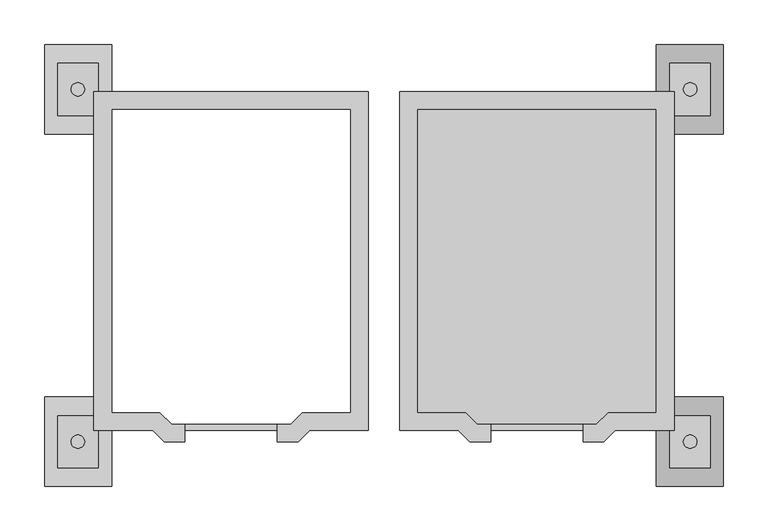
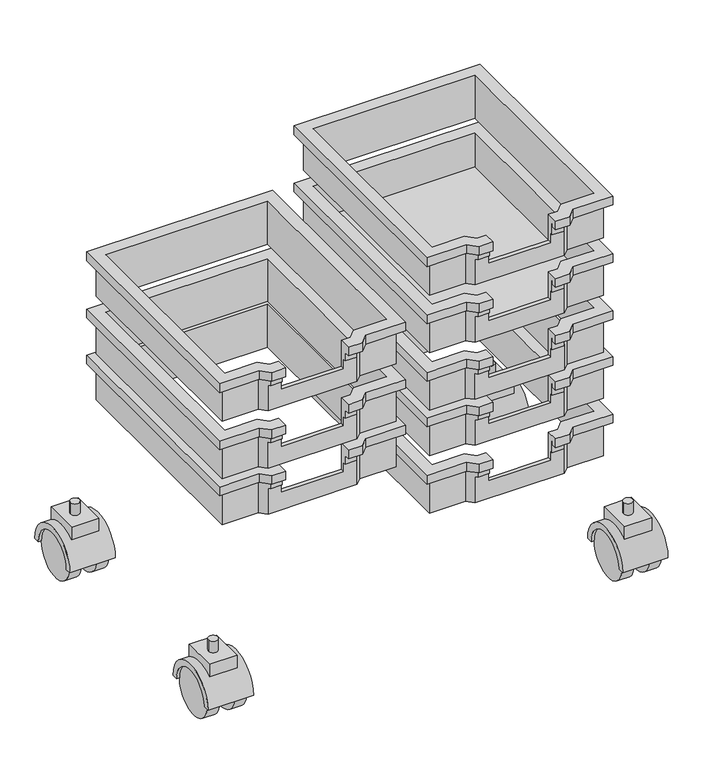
"""IFC4 building model written with IfcOpenShell, lengths in millimetres: furniture geometry, BIMHealth-Trolley_Gratnell-v1 : BIMHealth-Trolley_Gratnell-v1."""

from ifc_helpers import new_model, si_unit, point, frame, frame_2d, origin, place, context, project, spatial, polyline, circle_curve, trimmed, segment, composite_curve, outline, extrude, faceted_brep, source, transform, mapped, element, save


def furniture_ef83e96a(model_context):
    return source(origin(), model_context, "Body", "SolidModel", [
        extrude(outline(composite_curve([segment(trimmed(circle_curve(frame_2d((342.7936384, -197.5)), 7.5), [point((350.2936384, -197.5))], [point((335.2936384, -197.5))], False, "CARTESIAN"), True, "CONTINUOUS"), segment(trimmed(circle_curve(frame_2d((342.7936384, -197.5)), 7.5), [point((335.2936384, -197.5))], [point((350.2936384, -197.5))], False, "CARTESIAN"), True, "CONTINUOUS")], self_intersect=False)), frame((0.0, 0.0, 102.2775188), z_axis=(0.0, 0.0, 1.0), x_axis=(1.0, 0.0, 0.0)), (0.0, 0.0, 1.0), 20.0),
        extrude(outline(composite_curve([segment(polyline([(-168.2435995, 102.2775188), (-168.2435995, 80.5470471)]), True, "CONTINUOUS"), segment(trimmed(circle_curve(frame_2d((-197.5, 40.0)), 50.0), [point((-168.2435995, 80.5470471))], [point((-226.7564005, 80.5470471))], True, "CARTESIAN"), True, "CONTINUOUS"), segment(polyline([(-226.7564005, 80.5470471), (-226.7564005, 102.2775188), (-168.2435995, 102.2775188)]), True, "CONTINUOUS")], self_intersect=False)), frame((320.1679747, 0.0, 0.0), z_axis=(1.0, 0.0, 0.0), x_axis=(0.0, 1.0, 0.0)), (0.0, 0.0, 1.0), 45.2513275),
        extrude(outline(composite_curve([segment(trimmed(circle_curve(frame_2d((-197.5, 40.0)), 40.0), [point((-157.5, 40.0))], [point((-237.5, 40.0))], True, "CARTESIAN"), True, "CONTINUOUS"), segment(polyline([(-237.5, 40.0), (-247.5, 40.0)]), True, "CONTINUOUS"), segment(trimmed(circle_curve(frame_2d((-197.5, 40.0)), 50.0), [point((-247.5, 40.0))], [point((-147.5, 40.0))], False, "CARTESIAN"), True, "CONTINUOUS"), segment(polyline([(-147.5, 40.0), (-157.5, 40.0)]), True, "CONTINUOUS")], self_intersect=False)), frame((305.0, 0.0, 0.0), z_axis=(1.0, 0.0, 0.0), x_axis=(0.0, 1.0, 0.0)), (0.0, 0.0, 1.0), 75.0),
        extrude(outline(composite_curve([segment(trimmed(circle_curve(frame_2d((-197.5, 40.0)), 40.0), [point((-237.5, 40.0))], [point((-157.5, 40.0))], False, "CARTESIAN"), True, "CONTINUOUS"), segment(trimmed(circle_curve(frame_2d((-197.5, 40.0)), 40.0), [point((-157.5, 40.0))], [point((-237.5, 40.0))], False, "CARTESIAN"), True, "CONTINUOUS")], self_intersect=False)), frame((310.0, 0.0, 0.0), z_axis=(1.0, 0.0, 0.0), x_axis=(0.0, 1.0, 0.0)), (0.0, 0.0, 1.0), 20.0),
        extrude(outline(composite_curve([segment(trimmed(circle_curve(frame_2d((-197.5, 40.0)), 40.0), [point((-237.5, 40.0))], [point((-157.5, 40.0))], False, "CARTESIAN"), True, "CONTINUOUS"), segment(trimmed(circle_curve(frame_2d((-197.5, 40.0)), 40.0), [point((-157.5, 40.0))], [point((-237.5, 40.0))], False, "CARTESIAN"), True, "CONTINUOUS")], self_intersect=False)), frame((355.0, 0.0, 0.0), z_axis=(1.0, 0.0, 0.0), x_axis=(0.0, 1.0, 0.0)), (0.0, 0.0, 1.0), 20.0),
        extrude(outline(composite_curve([segment(trimmed(circle_curve(frame_2d((-342.7936384, -197.5)), 7.5), [point((-350.2936384, -197.5))], [point((-335.2936384, -197.5))], False, "CARTESIAN"), True, "CONTINUOUS"), segment(trimmed(circle_curve(frame_2d((-342.7936384, -197.5)), 7.5), [point((-335.2936384, -197.5))], [point((-350.2936384, -197.5))], False, "CARTESIAN"), True, "CONTINUOUS")], self_intersect=False)), frame((0.0, 0.0, 102.2775188), z_axis=(0.0, 0.0, 1.0), x_axis=(1.0, 0.0, 0.0)), (0.0, 0.0, 1.0), 20.0),
        extrude(outline(composite_curve([segment(polyline([(-168.2435995, 102.2775188), (-168.2435995, 80.5470471)]), True, "CONTINUOUS"), segment(trimmed(circle_curve(frame_2d((-197.5, 40.0)), 50.0), [point((-168.2435995, 80.5470471))], [point((-226.7564005, 80.5470471))], True, "CARTESIAN"), True, "CONTINUOUS"), segment(polyline([(-226.7564005, 80.5470471), (-226.7564005, 102.2775188), (-168.2435995, 102.2775188)]), True, "CONTINUOUS")], self_intersect=False)), frame((-365.4193021, 0.0, 0.0), z_axis=(1.0, 0.0, 0.0), x_axis=(0.0, 1.0, 0.0)), (0.0, 0.0, 1.0), 45.2513275),
        extrude(outline(composite_curve([segment(trimmed(circle_curve(frame_2d((-197.5, 40.0)), 40.0), [point((-157.5, 40.0))], [point((-237.5, 40.0))], True, "CARTESIAN"), True, "CONTINUOUS"), segment(polyline([(-237.5, 40.0), (-247.5, 40.0)]), True, "CONTINUOUS"), segment(trimmed(circle_curve(frame_2d((-197.5, 40.0)), 50.0), [point((-247.5, 40.0))], [point((-147.5, 40.0))], False, "CARTESIAN"), True, "CONTINUOUS"), segment(polyline([(-147.5, 40.0), (-157.5, 40.0)]), True, "CONTINUOUS")], self_intersect=False)), frame((-380.0, 0.0, 0.0), z_axis=(1.0, 0.0, 0.0), x_axis=(0.0, 1.0, 0.0)), (0.0, 0.0, 1.0), 75.0),
        extrude(outline(composite_curve([segment(trimmed(circle_curve(frame_2d((-197.5, 40.0)), 40.0), [point((-237.5, 40.0))], [point((-157.5, 40.0))], False, "CARTESIAN"), True, "CONTINUOUS"), segment(trimmed(circle_curve(frame_2d((-197.5, 40.0)), 40.0), [point((-157.5, 40.0))], [point((-237.5, 40.0))], False, "CARTESIAN"), True, "CONTINUOUS")], self_intersect=False)), frame((-330.0, 0.0, 0.0), z_axis=(1.0, 0.0, 0.0), x_axis=(0.0, 1.0, 0.0)), (0.0, 0.0, 1.0), 20.0),
        extrude(outline(composite_curve([segment(trimmed(circle_curve(frame_2d((-197.5, 40.0)), 40.0), [point((-237.5, 40.0))], [point((-157.5, 40.0))], False, "CARTESIAN"), True, "CONTINUOUS"), segment(trimmed(circle_curve(frame_2d((-197.5, 40.0)), 40.0), [point((-157.5, 40.0))], [point((-237.5, 40.0))], False, "CARTESIAN"), True, "CONTINUOUS")], self_intersect=False)), frame((-375.0, 0.0, 0.0), z_axis=(1.0, 0.0, 0.0), x_axis=(0.0, 1.0, 0.0)), (0.0, 0.0, 1.0), 20.0),
        extrude(outline(composite_curve([segment(trimmed(circle_curve(frame_2d((342.7936384, 197.5)), 7.5), [point((350.2936384, 197.5))], [point((335.2936384, 197.5))], False, "CARTESIAN"), True, "CONTINUOUS"), segment(trimmed(circle_curve(frame_2d((342.7936384, 197.5)), 7.5), [point((335.2936384, 197.5))], [point((350.2936384, 197.5))], False, "CARTESIAN"), True, "CONTINUOUS")], self_intersect=False)), frame((0.0, 0.0, 102.2775188), z_axis=(0.0, 0.0, 1.0), x_axis=(1.0, 0.0, 0.0)), (0.0, 0.0, 1.0), 20.0),
        extrude(outline(composite_curve([segment(polyline([(168.2435995, 102.2775188), (226.7564005, 102.2775188), (226.7564005, 80.5470471)]), True, "CONTINUOUS"), segment(trimmed(circle_curve(frame_2d((197.5, 40.0)), 50.0), [point((226.7564005, 80.5470471))], [point((168.2435995, 80.5470471))], True, "CARTESIAN"), True, "CONTINUOUS"), segment(polyline([(168.2435995, 80.5470471), (168.2435995, 102.2775188)]), True, "CONTINUOUS")], self_intersect=False)), frame((320.1679747, 0.0, 0.0), z_axis=(1.0, 0.0, 0.0), x_axis=(0.0, 1.0, 0.0)), (0.0, 0.0, 1.0), 45.2513275),
        extrude(outline(composite_curve([segment(polyline([(157.5, 40.0), (147.5, 40.0)]), True, "CONTINUOUS"), segment(trimmed(circle_curve(frame_2d((197.5, 40.0)), 50.0), [point((147.5, 40.0))], [point((247.5, 40.0))], False, "CARTESIAN"), True, "CONTINUOUS"), segment(polyline([(247.5, 40.0), (237.5, 40.0)]), True, "CONTINUOUS"), segment(trimmed(circle_curve(frame_2d((197.5, 40.0)), 40.0), [point((237.5, 40.0))], [point((157.5, 40.0))], True, "CARTESIAN"), True, "CONTINUOUS")], self_intersect=False)), frame((305.0, 0.0, 0.0), z_axis=(1.0, 0.0, 0.0), x_axis=(0.0, 1.0, 0.0)), (0.0, 0.0, 1.0), 75.0),
        extrude(outline(composite_curve([segment(trimmed(circle_curve(frame_2d((197.5, 40.0)), 40.0), [point((237.5, 40.0))], [point((157.5, 40.0))], False, "CARTESIAN"), True, "CONTINUOUS"), segment(trimmed(circle_curve(frame_2d((197.5, 40.0)), 40.0), [point((157.5, 40.0))], [point((237.5, 40.0))], False, "CARTESIAN"), True, "CONTINUOUS")], self_intersect=False)), frame((310.0, 0.0, 0.0), z_axis=(1.0, 0.0, 0.0), x_axis=(0.0, 1.0, 0.0)), (0.0, 0.0, 1.0), 20.0),
        extrude(outline(composite_curve([segment(trimmed(circle_curve(frame_2d((197.5, 40.0)), 40.0), [point((237.5, 40.0))], [point((157.5, 40.0))], False, "CARTESIAN"), True, "CONTINUOUS"), segment(trimmed(circle_curve(frame_2d((197.5, 40.0)), 40.0), [point((157.5, 40.0))], [point((237.5, 40.0))], False, "CARTESIAN"), True, "CONTINUOUS")], self_intersect=False)), frame((355.0, 0.0, 0.0), z_axis=(1.0, 0.0, 0.0), x_axis=(0.0, 1.0, 0.0)), (0.0, 0.0, 1.0), 20.0),
        extrude(outline(composite_curve([segment(trimmed(circle_curve(frame_2d((-342.7936384, 197.5)), 7.5), [point((-350.2936384, 197.5))], [point((-335.2936384, 197.5))], False, "CARTESIAN"), True, "CONTINUOUS"), segment(trimmed(circle_curve(frame_2d((-342.7936384, 197.5)), 7.5), [point((-335.2936384, 197.5))], [point((-350.2936384, 197.5))], False, "CARTESIAN"), True, "CONTINUOUS")], self_intersect=False)), frame((0.0, 0.0, 102.2775188), z_axis=(0.0, 0.0, 1.0), x_axis=(1.0, 0.0, 0.0)), (0.0, 0.0, 1.0), 20.0),
        extrude(outline(composite_curve([segment(polyline([(168.2435995, 102.2775188), (226.7564005, 102.2775188), (226.7564005, 80.5470471)]), True, "CONTINUOUS"), segment(trimmed(circle_curve(frame_2d((197.5, 40.0)), 50.0), [point((226.7564005, 80.5470471))], [point((168.2435995, 80.5470471))], True, "CARTESIAN"), True, "CONTINUOUS"), segment(polyline([(168.2435995, 80.5470471), (168.2435995, 102.2775188)]), True, "CONTINUOUS")], self_intersect=False)), frame((-365.4193021, 0.0, 0.0), z_axis=(1.0, 0.0, 0.0), x_axis=(0.0, 1.0, 0.0)), (0.0, 0.0, 1.0), 45.2513275),
        extrude(outline(composite_curve([segment(polyline([(157.5, 40.0), (147.5, 40.0)]), True, "CONTINUOUS"), segment(trimmed(circle_curve(frame_2d((197.5, 40.0)), 50.0), [point((147.5, 40.0))], [point((247.5, 40.0))], False, "CARTESIAN"), True, "CONTINUOUS"), segment(polyline([(247.5, 40.0), (237.5, 40.0)]), True, "CONTINUOUS"), segment(trimmed(circle_curve(frame_2d((197.5, 40.0)), 40.0), [point((237.5, 40.0))], [point((157.5, 40.0))], True, "CARTESIAN"), True, "CONTINUOUS")], self_intersect=False)), frame((-380.0, 0.0, 0.0), z_axis=(1.0, 0.0, 0.0), x_axis=(0.0, 1.0, 0.0)), (0.0, 0.0, 1.0), 75.0),
        extrude(outline(composite_curve([segment(trimmed(circle_curve(frame_2d((197.5, 40.0)), 40.0), [point((237.5, 40.0))], [point((157.5, 40.0))], False, "CARTESIAN"), True, "CONTINUOUS"), segment(trimmed(circle_curve(frame_2d((197.5, 40.0)), 40.0), [point((157.5, 40.0))], [point((237.5, 40.0))], False, "CARTESIAN"), True, "CONTINUOUS")], self_intersect=False)), frame((-330.0, 0.0, 0.0), z_axis=(1.0, 0.0, 0.0), x_axis=(0.0, 1.0, 0.0)), (0.0, 0.0, 1.0), 20.0),
        extrude(outline(composite_curve([segment(trimmed(circle_curve(frame_2d((197.5, 40.0)), 40.0), [point((237.5, 40.0))], [point((157.5, 40.0))], False, "CARTESIAN"), True, "CONTINUOUS"), segment(trimmed(circle_curve(frame_2d((197.5, 40.0)), 40.0), [point((157.5, 40.0))], [point((237.5, 40.0))], False, "CARTESIAN"), True, "CONTINUOUS")], self_intersect=False)), frame((-375.0, 0.0, 0.0), z_axis=(1.0, 0.0, 0.0), x_axis=(0.0, 1.0, 0.0)), (0.0, 0.0, 1.0), 20.0),
        faceted_brep([(-222.9289322, -177.9289322, 407.2775188), (-119.5710678, -177.9289322, 407.2775188), (-119.5710678, -177.9289322, 452.2775188), (-104.5710678, -177.9289322, 452.2775188), (-104.5710678, -177.9289322, 377.2775188), (-237.9289322, -177.9289322, 377.2775188), (-237.9289322, -177.9289322, 452.2775188), (-222.9289322, -177.9289322, 452.2775188), (-250.8578644, -165.0, 377.2775188), (-250.8578644, -165.0, 452.2775188), (-305.0, -165.0, 377.2775188), (-305.0, -165.0, 452.2775188), (-305.0, 175.0, 377.2775188), (-305.0, 175.0, 452.2775188), (-37.5, 175.0, 377.2775188), (-37.5, 175.0, 452.2775188), (-37.5, -165.0, 377.2775188), (-37.5, -165.0, 452.2775188), (-91.6421356, -165.0, 377.2775188), (-91.6421356, -165.0, 452.2775188), (-119.5710678, -185.0, 407.2775188), (-119.5710678, -185.0, 422.2775188), (-119.5710678, -187.9289322, 422.2775188), (-119.5710678, -187.9289322, 442.2775188), (-119.5710678, -189.1789322, 442.2775188), (-119.5710678, -189.1789322, 437.2775188), (-119.5710678, -197.9289322, 437.2775188), (-119.5710678, -197.9289322, 452.2775188), (-222.9289322, -185.0, 407.2775188), (-222.9289322, -185.0, 422.2775188), (-245.0, -185.0, 422.2775188), (-245.0, -185.0, 377.2775188), (-97.5, -185.0, 377.2775188), (-97.5, -185.0, 422.2775188), (-87.5, -175.0, 377.2775188), (-87.5, -175.0, 442.2775188), (-100.4289322, -187.9289322, 442.2775188), (-100.4289322, -187.9289322, 422.2775188), (-27.5, -175.0, 377.2775188), (-27.5, -175.0, 442.2775188), (-27.5, 185.0, 377.2775188), (-27.5, 185.0, 442.2775188), (-315.0, 185.0, 377.2775188), (-315.0, 185.0, 442.2775188), (-315.0, -175.0, 377.2775188), (-315.0, -175.0, 442.2775188), (-255.0, -175.0, 377.2775188), (-255.0, -175.0, 442.2775188), (-242.0710678, -187.9289322, 422.2775188), (-242.0710678, -187.9289322, 442.2775188), (-222.9289322, -197.9289322, 452.2775188), (-222.9289322, -197.9289322, 437.2775188), (-222.9289322, -189.1789322, 437.2775188), (-222.9289322, -189.1789322, 442.2775188), (-222.9289322, -187.9289322, 442.2775188), (-222.9289322, -187.9289322, 422.2775188), (-86.982233, -176.25, 437.2775188), (-86.982233, -176.25, 442.2775188), (-26.25, -176.25, 442.2775188), (-26.25, -176.25, 437.2775188), (-26.25, 186.25, 442.2775188), (-26.25, 186.25, 437.2775188), (-316.25, 186.25, 442.2775188), (-316.25, 186.25, 437.2775188), (-316.25, -176.25, 442.2775188), (-316.25, -176.25, 437.2775188), (-255.517767, -176.25, 442.2775188), (-255.517767, -176.25, 437.2775188), (-83.3578644, -185.0, 452.2775188), (-83.3578644, -185.0, 437.2775188), (-17.5, -185.0, 437.2775188), (-17.5, -185.0, 452.2775188), (-17.5, 195.0, 437.2775188), (-17.5, 195.0, 452.2775188), (-325.0, 195.0, 437.2775188), (-325.0, 195.0, 452.2775188), (-325.0, -185.0, 437.2775188), (-325.0, -185.0, 452.2775188), (-259.1421356, -185.0, 437.2775188), (-259.1421356, -185.0, 452.2775188), (-99.9111652, -189.1789322, 437.2775188), (-99.9111652, -189.1789322, 442.2775188), (-96.2867966, -197.9289322, 452.2775188), (-96.2867966, -197.9289322, 437.2775188), (-242.5888348, -189.1789322, 442.2775188), (-242.5888348, -189.1789322, 437.2775188), (-246.2132034, -197.9289322, 437.2775188), (-246.2132034, -197.9289322, 452.2775188)], [[[0, 1, 2, 3, 4, 5, 6, 7]], [[6, 5, 8, 9]], [[9, 8, 10, 11]], [[11, 10, 12, 13]], [[13, 12, 14, 15]], [[15, 14, 16, 17]], [[17, 16, 18, 19]], [[19, 18, 4, 3]], [[2, 1, 20, 21, 22, 23, 24, 25, 26, 27]], [[21, 20, 28, 29, 30, 31, 32, 33]], [[32, 34, 35, 36, 37, 33]], [[35, 34, 38, 39]], [[39, 38, 40, 41]], [[41, 40, 42, 43]], [[43, 42, 44, 45]], [[45, 44, 46, 47]], [[47, 46, 31, 30, 48, 49]], [[0, 7, 50, 51, 52, 53, 54, 55, 29, 28]], [[28, 20, 1, 0]], [[40, 38, 34, 32, 31, 46, 44, 42], [14, 12, 10, 8, 5, 4, 18, 16]], [[56, 57, 58, 59]], [[59, 58, 60, 61]], [[61, 60, 62, 63]], [[63, 62, 64, 65]], [[65, 64, 66, 67]], [[68, 69, 70, 71]], [[71, 70, 72, 73]], [[73, 72, 74, 75]], [[75, 74, 76, 77]], [[77, 76, 78, 79]], [[57, 56, 80, 81]], [[69, 68, 82, 83]], [[67, 66, 84, 85]], [[79, 78, 86, 87]], [[23, 22, 37, 36]], [[24, 23, 36, 35, 39, 41, 43, 45, 47, 49, 54, 53, 84, 66, 64, 62, 60, 58, 57, 81]], [[25, 24, 81, 80]], [[26, 25, 80, 56, 59, 61, 63, 65, 67, 85, 52, 51, 86, 78, 76, 74, 72, 70, 69, 83]], [[27, 26, 83, 82]], [[2, 27, 82, 68, 71, 73, 75, 77, 79, 87, 50, 7, 6, 9, 11, 13, 15, 17, 19, 3]], [[37, 22, 21, 33]], [[55, 48, 30, 29]], [[55, 54, 49, 48]], [[53, 52, 85, 84]], [[51, 50, 87, 86]]]),
        faceted_brep([(-119.5710678, -187.9289322, 342.2775188), (-119.5710678, -187.9289322, 362.2775188), (-119.5710678, -189.1789322, 362.2775188), (-119.5710678, -189.1789322, 357.2775188), (-119.5710678, -197.9289322, 357.2775188), (-119.5710678, -197.9289322, 372.2775188), (-119.5710678, -177.9289322, 372.2775188), (-119.5710678, -177.9289322, 327.2775188), (-119.5710678, -185.0, 327.2775188), (-119.5710678, -185.0, 342.2775188), (-86.982233, -176.25, 357.2775188), (-86.982233, -176.25, 362.2775188), (-26.25, -176.25, 362.2775188), (-26.25, -176.25, 357.2775188), (-27.5, -175.0, 362.2775188), (-87.5, -175.0, 362.2775188), (-87.5, -175.0, 297.2775188), (-27.5, -175.0, 297.2775188), (-26.25, 186.25, 362.2775188), (-26.25, 186.25, 357.2775188), (-27.5, 185.0, 362.2775188), (-27.5, 185.0, 297.2775188), (-316.25, 186.25, 362.2775188), (-316.25, 186.25, 357.2775188), (-315.0, 185.0, 362.2775188), (-315.0, 185.0, 297.2775188), (-316.25, -176.25, 362.2775188), (-316.25, -176.25, 357.2775188), (-315.0, -175.0, 362.2775188), (-315.0, -175.0, 297.2775188), (-222.9289322, -177.9289322, 372.2775188), (-222.9289322, -197.9289322, 372.2775188), (-222.9289322, -197.9289322, 357.2775188), (-222.9289322, -189.1789322, 357.2775188), (-222.9289322, -189.1789322, 362.2775188), (-222.9289322, -187.9289322, 362.2775188), (-222.9289322, -187.9289322, 342.2775188), (-222.9289322, -185.0, 342.2775188), (-222.9289322, -185.0, 327.2775188), (-222.9289322, -177.9289322, 327.2775188), (-255.517767, -176.25, 362.2775188), (-255.517767, -176.25, 357.2775188), (-255.0, -175.0, 362.2775188), (-255.0, -175.0, 297.2775188), (-83.3578644, -185.0, 372.2775188), (-83.3578644, -185.0, 357.2775188), (-17.5, -185.0, 357.2775188), (-17.5, -185.0, 372.2775188), (-91.6421356, -165.0, 372.2775188), (-37.5, -165.0, 372.2775188), (-37.5, -165.0, 297.2775188), (-91.6421356, -165.0, 297.2775188), (-17.5, 195.0, 357.2775188), (-17.5, 195.0, 372.2775188), (-37.5, 175.0, 372.2775188), (-37.5, 175.0, 297.2775188), (-325.0, 195.0, 357.2775188), (-325.0, 195.0, 372.2775188), (-305.0, 175.0, 372.2775188), (-305.0, 175.0, 297.2775188), (-325.0, -185.0, 357.2775188), (-325.0, -185.0, 372.2775188), (-305.0, -165.0, 372.2775188), (-305.0, -165.0, 297.2775188), (-259.1421356, -185.0, 357.2775188), (-259.1421356, -185.0, 372.2775188), (-250.8578644, -165.0, 372.2775188), (-250.8578644, -165.0, 297.2775188), (-100.4289322, -187.9289322, 362.2775188), (-100.4289322, -187.9289322, 342.2775188), (-97.5, -185.0, 342.2775188), (-97.5, -185.0, 297.2775188), (-99.9111652, -189.1789322, 357.2775188), (-99.9111652, -189.1789322, 362.2775188), (-96.2867966, -197.9289322, 372.2775188), (-96.2867966, -197.9289322, 357.2775188), (-104.5710678, -177.9289322, 372.2775188), (-104.5710678, -177.9289322, 297.2775188), (-242.0710678, -187.9289322, 342.2775188), (-242.0710678, -187.9289322, 362.2775188), (-245.0, -185.0, 297.2775188), (-245.0, -185.0, 342.2775188), (-242.5888348, -189.1789322, 362.2775188), (-242.5888348, -189.1789322, 357.2775188), (-246.2132034, -197.9289322, 357.2775188), (-246.2132034, -197.9289322, 372.2775188), (-237.9289322, -177.9289322, 372.2775188), (-237.9289322, -177.9289322, 297.2775188)], [[[0, 1, 2, 3, 4, 5, 6, 7, 8, 9]], [[10, 11, 12, 13]], [[14, 15, 16, 17]], [[13, 12, 18, 19]], [[20, 14, 17, 21]], [[19, 18, 22, 23]], [[24, 20, 21, 25]], [[23, 22, 26, 27]], [[28, 24, 25, 29]], [[30, 31, 32, 33, 34, 35, 36, 37, 38, 39]], [[27, 26, 40, 41]], [[42, 28, 29, 43]], [[44, 45, 46, 47]], [[48, 49, 50, 51]], [[47, 46, 52, 53]], [[50, 49, 54, 55]], [[53, 52, 56, 57]], [[55, 54, 58, 59]], [[57, 56, 60, 61]], [[59, 58, 62, 63]], [[61, 60, 64, 65]], [[63, 62, 66, 67]], [[68, 69, 70, 71, 16, 15]], [[11, 10, 72, 73]], [[45, 44, 74, 75]], [[76, 48, 51, 77]], [[78, 79, 42, 43, 80, 81]], [[41, 40, 82, 83]], [[65, 64, 84, 85]], [[67, 66, 86, 87]], [[1, 0, 69, 68]], [[2, 1, 68, 15, 14, 20, 24, 28, 42, 79, 35, 34, 82, 40, 26, 22, 18, 12, 11, 73]], [[3, 2, 73, 72]], [[4, 3, 72, 10, 13, 19, 23, 27, 41, 83, 33, 32, 84, 64, 60, 56, 52, 46, 45, 75]], [[5, 4, 75, 74]], [[6, 5, 74, 44, 47, 53, 57, 61, 65, 85, 31, 30, 86, 66, 62, 58, 54, 49, 48, 76]], [[6, 76, 77, 87, 86, 30, 39, 7]], [[69, 0, 9, 70]], [[36, 78, 81, 37]], [[36, 35, 79, 78]], [[34, 33, 83, 82]], [[32, 31, 85, 84]], [[9, 8, 38, 37, 81, 80, 71, 70]], [[7, 39, 38, 8]], [[21, 17, 16, 71, 80, 43, 29, 25], [55, 59, 63, 67, 87, 77, 51, 50]]]),
        faceted_brep([(119.5710678, -177.9289322, 272.2775188), (119.5710678, -197.9289322, 272.2775188), (119.5710678, -197.9289322, 257.2775188), (119.5710678, -189.1789322, 257.2775188), (119.5710678, -189.1789322, 262.2775188), (119.5710678, -187.9289322, 262.2775188), (119.5710678, -187.9289322, 242.2775188), (119.5710678, -185.0, 242.2775188), (119.5710678, -185.0, 227.2775188), (119.5710678, -177.9289322, 227.2775188), (86.982233, -176.25, 262.2775188), (86.982233, -176.25, 257.2775188), (26.25, -176.25, 257.2775188), (26.25, -176.25, 262.2775188), (87.5, -175.0, 262.2775188), (27.5, -175.0, 262.2775188), (27.5, -175.0, 197.2775188), (87.5, -175.0, 197.2775188), (26.25, 186.25, 257.2775188), (26.25, 186.25, 262.2775188), (27.5, 185.0, 262.2775188), (27.5, 185.0, 197.2775188), (316.25, 186.25, 257.2775188), (316.25, 186.25, 262.2775188), (315.0, 185.0, 262.2775188), (315.0, 185.0, 197.2775188), (316.25, -176.25, 257.2775188), (316.25, -176.25, 262.2775188), (315.0, -175.0, 262.2775188), (315.0, -175.0, 197.2775188), (222.9289322, -187.9289322, 242.2775188), (222.9289322, -187.9289322, 262.2775188), (222.9289322, -189.1789322, 262.2775188), (222.9289322, -189.1789322, 257.2775188), (222.9289322, -197.9289322, 257.2775188), (222.9289322, -197.9289322, 272.2775188), (222.9289322, -177.9289322, 272.2775188), (222.9289322, -177.9289322, 227.2775188), (222.9289322, -185.0, 227.2775188), (222.9289322, -185.0, 242.2775188), (255.517767, -176.25, 257.2775188), (255.517767, -176.25, 262.2775188), (255.0, -175.0, 262.2775188), (255.0, -175.0, 197.2775188), (83.3578644, -185.0, 257.2775188), (83.3578644, -185.0, 272.2775188), (17.5, -185.0, 272.2775188), (17.5, -185.0, 257.2775188), (37.5, -165.0, 272.2775188), (91.6421356, -165.0, 272.2775188), (91.6421356, -165.0, 197.2775188), (37.5, -165.0, 197.2775188), (17.5, 195.0, 272.2775188), (17.5, 195.0, 257.2775188), (37.5, 175.0, 272.2775188), (37.5, 175.0, 197.2775188), (325.0, 195.0, 272.2775188), (325.0, 195.0, 257.2775188), (305.0, 175.0, 272.2775188), (305.0, 175.0, 197.2775188), (325.0, -185.0, 272.2775188), (325.0, -185.0, 257.2775188), (305.0, -165.0, 272.2775188), (305.0, -165.0, 197.2775188), (259.1421356, -185.0, 272.2775188), (259.1421356, -185.0, 257.2775188), (250.8578644, -165.0, 272.2775188), (250.8578644, -165.0, 197.2775188), (100.4289322, -187.9289322, 242.2775188), (100.4289322, -187.9289322, 262.2775188), (97.5, -185.0, 197.2775188), (97.5, -185.0, 242.2775188), (99.9111652, -189.1789322, 262.2775188), (99.9111652, -189.1789322, 257.2775188), (96.2867966, -197.9289322, 257.2775188), (96.2867966, -197.9289322, 272.2775188), (104.5710678, -177.9289322, 272.2775188), (104.5710678, -177.9289322, 197.2775188), (242.0710678, -187.9289322, 262.2775188), (242.0710678, -187.9289322, 242.2775188), (245.0, -185.0, 242.2775188), (245.0, -185.0, 197.2775188), (242.5888348, -189.1789322, 257.2775188), (242.5888348, -189.1789322, 262.2775188), (246.2132034, -197.9289322, 272.2775188), (246.2132034, -197.9289322, 257.2775188), (237.9289322, -177.9289322, 272.2775188), (237.9289322, -177.9289322, 197.2775188)], [[[0, 1, 2, 3, 4, 5, 6, 7, 8, 9]], [[10, 11, 12, 13]], [[14, 15, 16, 17]], [[13, 12, 18, 19]], [[16, 15, 20, 21]], [[19, 18, 22, 23]], [[21, 20, 24, 25]], [[23, 22, 26, 27]], [[25, 24, 28, 29]], [[30, 31, 32, 33, 34, 35, 36, 37, 38, 39]], [[27, 26, 40, 41]], [[29, 28, 42, 43]], [[44, 45, 46, 47]], [[48, 49, 50, 51]], [[47, 46, 52, 53]], [[54, 48, 51, 55]], [[53, 52, 56, 57]], [[58, 54, 55, 59]], [[57, 56, 60, 61]], [[62, 58, 59, 63]], [[61, 60, 64, 65]], [[66, 62, 63, 67]], [[68, 69, 14, 17, 70, 71]], [[11, 10, 72, 73]], [[45, 44, 74, 75]], [[50, 49, 76, 77]], [[43, 42, 78, 79, 80, 81]], [[41, 40, 82, 83]], [[65, 64, 84, 85]], [[86, 66, 67, 87]], [[6, 5, 69, 68]], [[5, 4, 72, 10, 13, 19, 23, 27, 41, 83, 32, 31, 78, 42, 28, 24, 20, 15, 14, 69]], [[4, 3, 73, 72]], [[3, 2, 74, 44, 47, 53, 57, 61, 65, 85, 34, 33, 82, 40, 26, 22, 18, 12, 11, 73]], [[2, 1, 75, 74]], [[1, 0, 76, 49, 48, 54, 58, 62, 66, 86, 36, 35, 84, 64, 60, 56, 52, 46, 45, 75]], [[77, 76, 0, 9, 37, 36, 86, 87]], [[6, 68, 71, 7]], [[79, 30, 39, 80]], [[31, 30, 79, 78]], [[33, 32, 83, 82]], [[35, 34, 85, 84]], [[8, 7, 71, 70, 81, 80, 39, 38]], [[37, 9, 8, 38]], [[21, 25, 29, 43, 81, 70, 17, 16], [55, 51, 50, 77, 87, 67, 63, 59]]]),
        faceted_brep([(119.5710678, -177.9289322, 372.2775188), (119.5710678, -197.9289322, 372.2775188), (119.5710678, -197.9289322, 357.2775188), (119.5710678, -189.1789322, 357.2775188), (119.5710678, -189.1789322, 362.2775188), (119.5710678, -187.9289322, 362.2775188), (119.5710678, -187.9289322, 342.2775188), (119.5710678, -185.0, 342.2775188), (119.5710678, -185.0, 327.2775188), (119.5710678, -177.9289322, 327.2775188), (86.982233, -176.25, 362.2775188), (86.982233, -176.25, 357.2775188), (26.25, -176.25, 357.2775188), (26.25, -176.25, 362.2775188), (87.5, -175.0, 362.2775188), (27.5, -175.0, 362.2775188), (27.5, -175.0, 297.2775188), (87.5, -175.0, 297.2775188), (26.25, 186.25, 357.2775188), (26.25, 186.25, 362.2775188), (27.5, 185.0, 362.2775188), (27.5, 185.0, 297.2775188), (316.25, 186.25, 357.2775188), (316.25, 186.25, 362.2775188), (315.0, 185.0, 362.2775188), (315.0, 185.0, 297.2775188), (316.25, -176.25, 357.2775188), (316.25, -176.25, 362.2775188), (315.0, -175.0, 362.2775188), (315.0, -175.0, 297.2775188), (222.9289322, -187.9289322, 342.2775188), (222.9289322, -187.9289322, 362.2775188), (222.9289322, -189.1789322, 362.2775188), (222.9289322, -189.1789322, 357.2775188), (222.9289322, -197.9289322, 357.2775188), (222.9289322, -197.9289322, 372.2775188), (222.9289322, -177.9289322, 372.2775188), (222.9289322, -177.9289322, 327.2775188), (222.9289322, -185.0, 327.2775188), (222.9289322, -185.0, 342.2775188), (255.517767, -176.25, 357.2775188), (255.517767, -176.25, 362.2775188), (255.0, -175.0, 362.2775188), (255.0, -175.0, 297.2775188), (83.3578644, -185.0, 357.2775188), (83.3578644, -185.0, 372.2775188), (17.5, -185.0, 372.2775188), (17.5, -185.0, 357.2775188), (37.5, -165.0, 372.2775188), (91.6421356, -165.0, 372.2775188), (91.6421356, -165.0, 297.2775188), (37.5, -165.0, 297.2775188), (17.5, 195.0, 372.2775188), (17.5, 195.0, 357.2775188), (37.5, 175.0, 372.2775188), (37.5, 175.0, 297.2775188), (325.0, 195.0, 372.2775188), (325.0, 195.0, 357.2775188), (305.0, 175.0, 372.2775188), (305.0, 175.0, 297.2775188), (325.0, -185.0, 372.2775188), (325.0, -185.0, 357.2775188), (305.0, -165.0, 372.2775188), (305.0, -165.0, 297.2775188), (259.1421356, -185.0, 372.2775188), (259.1421356, -185.0, 357.2775188), (250.8578644, -165.0, 372.2775188), (250.8578644, -165.0, 297.2775188), (100.4289322, -187.9289322, 342.2775188), (100.4289322, -187.9289322, 362.2775188), (97.5, -185.0, 297.2775188), (97.5, -185.0, 342.2775188), (99.9111652, -189.1789322, 362.2775188), (99.9111652, -189.1789322, 357.2775188), (96.2867966, -197.9289322, 357.2775188), (96.2867966, -197.9289322, 372.2775188), (104.5710678, -177.9289322, 372.2775188), (104.5710678, -177.9289322, 297.2775188), (242.0710678, -187.9289322, 362.2775188), (242.0710678, -187.9289322, 342.2775188), (245.0, -185.0, 342.2775188), (245.0, -185.0, 297.2775188), (242.5888348, -189.1789322, 357.2775188), (242.5888348, -189.1789322, 362.2775188), (246.2132034, -197.9289322, 372.2775188), (246.2132034, -197.9289322, 357.2775188), (237.9289322, -177.9289322, 372.2775188), (237.9289322, -177.9289322, 297.2775188)], [[[0, 1, 2, 3, 4, 5, 6, 7, 8, 9]], [[10, 11, 12, 13]], [[14, 15, 16, 17]], [[13, 12, 18, 19]], [[16, 15, 20, 21]], [[19, 18, 22, 23]], [[21, 20, 24, 25]], [[23, 22, 26, 27]], [[25, 24, 28, 29]], [[30, 31, 32, 33, 34, 35, 36, 37, 38, 39]], [[27, 26, 40, 41]], [[29, 28, 42, 43]], [[44, 45, 46, 47]], [[48, 49, 50, 51]], [[47, 46, 52, 53]], [[54, 48, 51, 55]], [[53, 52, 56, 57]], [[58, 54, 55, 59]], [[57, 56, 60, 61]], [[62, 58, 59, 63]], [[61, 60, 64, 65]], [[66, 62, 63, 67]], [[68, 69, 14, 17, 70, 71]], [[11, 10, 72, 73]], [[45, 44, 74, 75]], [[50, 49, 76, 77]], [[43, 42, 78, 79, 80, 81]], [[41, 40, 82, 83]], [[65, 64, 84, 85]], [[86, 66, 67, 87]], [[6, 5, 69, 68]], [[5, 4, 72, 10, 13, 19, 23, 27, 41, 83, 32, 31, 78, 42, 28, 24, 20, 15, 14, 69]], [[4, 3, 73, 72]], [[3, 2, 74, 44, 47, 53, 57, 61, 65, 85, 34, 33, 82, 40, 26, 22, 18, 12, 11, 73]], [[2, 1, 75, 74]], [[1, 0, 76, 49, 48, 54, 58, 62, 66, 86, 36, 35, 84, 64, 60, 56, 52, 46, 45, 75]], [[77, 76, 0, 9, 37, 36, 86, 87]], [[6, 68, 71, 7]], [[79, 30, 39, 80]], [[31, 30, 79, 78]], [[33, 32, 83, 82]], [[35, 34, 85, 84]], [[8, 7, 71, 70, 81, 80, 39, 38]], [[37, 9, 8, 38]], [[21, 25, 29, 43, 81, 70, 17, 16], [55, 51, 50, 77, 87, 67, 63, 59]]]),
        faceted_brep([(119.5710678, -177.9289322, 552.2775188), (119.5710678, -197.9289322, 552.2775188), (119.5710678, -197.9289322, 537.2775188), (119.5710678, -189.1789322, 537.2775188), (119.5710678, -189.1789322, 542.2775188), (119.5710678, -187.9289322, 542.2775188), (119.5710678, -187.9289322, 522.2775188), (119.5710678, -185.0, 522.2775188), (119.5710678, -185.0, 507.2775188), (119.5710678, -177.9289322, 507.2775188), (86.982233, -176.25, 542.2775188), (86.982233, -176.25, 537.2775188), (26.25, -176.25, 537.2775188), (26.25, -176.25, 542.2775188), (87.5, -175.0, 542.2775188), (27.5, -175.0, 542.2775188), (27.5, -175.0, 477.2775188), (87.5, -175.0, 477.2775188), (26.25, 186.25, 537.2775188), (26.25, 186.25, 542.2775188), (27.5, 185.0, 542.2775188), (27.5, 185.0, 477.2775188), (316.25, 186.25, 537.2775188), (316.25, 186.25, 542.2775188), (315.0, 185.0, 542.2775188), (315.0, 185.0, 477.2775188), (316.25, -176.25, 537.2775188), (316.25, -176.25, 542.2775188), (315.0, -175.0, 542.2775188), (315.0, -175.0, 477.2775188), (222.9289322, -187.9289322, 522.2775188), (222.9289322, -187.9289322, 542.2775188), (222.9289322, -189.1789322, 542.2775188), (222.9289322, -189.1789322, 537.2775188), (222.9289322, -197.9289322, 537.2775188), (222.9289322, -197.9289322, 552.2775188), (222.9289322, -177.9289322, 552.2775188), (222.9289322, -177.9289322, 507.2775188), (222.9289322, -185.0, 507.2775188), (222.9289322, -185.0, 522.2775188), (255.517767, -176.25, 537.2775188), (255.517767, -176.25, 542.2775188), (255.0, -175.0, 542.2775188), (255.0, -175.0, 477.2775188), (83.3578644, -185.0, 537.2775188), (83.3578644, -185.0, 552.2775188), (17.5, -185.0, 552.2775188), (17.5, -185.0, 537.2775188), (37.5, -165.0, 552.2775188), (91.6421356, -165.0, 552.2775188), (91.6421356, -165.0, 492.2775188), (37.5, -165.0, 492.2775188), (17.5, 195.0, 552.2775188), (17.5, 195.0, 537.2775188), (37.5, 175.0, 552.2775188), (37.5, 175.0, 492.2775188), (325.0, 195.0, 552.2775188), (325.0, 195.0, 537.2775188), (305.0, 175.0, 552.2775188), (305.0, 175.0, 492.2775188), (325.0, -185.0, 552.2775188), (325.0, -185.0, 537.2775188), (305.0, -165.0, 552.2775188), (305.0, -165.0, 492.2775188), (259.1421356, -185.0, 552.2775188), (259.1421356, -185.0, 537.2775188), (250.8578644, -165.0, 552.2775188), (250.8578644, -165.0, 492.2775188), (100.4289322, -187.9289322, 522.2775188), (100.4289322, -187.9289322, 542.2775188), (97.5, -185.0, 477.2775188), (97.5, -185.0, 522.2775188), (99.9111652, -189.1789322, 542.2775188), (99.9111652, -189.1789322, 537.2775188), (96.2867966, -197.9289322, 537.2775188), (96.2867966, -197.9289322, 552.2775188), (104.5710678, -177.9289322, 552.2775188), (104.5710678, -177.9289322, 492.2775188), (242.0710678, -187.9289322, 542.2775188), (242.0710678, -187.9289322, 522.2775188), (245.0, -185.0, 522.2775188), (245.0, -185.0, 477.2775188), (242.5888348, -189.1789322, 537.2775188), (242.5888348, -189.1789322, 542.2775188), (246.2132034, -197.9289322, 552.2775188), (246.2132034, -197.9289322, 537.2775188), (237.9289322, -177.9289322, 552.2775188), (237.9289322, -177.9289322, 492.2775188)], [[[0, 1, 2, 3, 4, 5, 6, 7, 8, 9]], [[10, 11, 12, 13]], [[14, 15, 16, 17]], [[13, 12, 18, 19]], [[15, 20, 21, 16]], [[19, 18, 22, 23]], [[20, 24, 25, 21]], [[23, 22, 26, 27]], [[24, 28, 29, 25]], [[30, 31, 32, 33, 34, 35, 36, 37, 38, 39]], [[27, 26, 40, 41]], [[28, 42, 43, 29]], [[44, 45, 46, 47]], [[48, 49, 50, 51]], [[47, 46, 52, 53]], [[54, 48, 51, 55]], [[53, 52, 56, 57]], [[58, 54, 55, 59]], [[57, 56, 60, 61]], [[62, 58, 59, 63]], [[61, 60, 64, 65]], [[66, 62, 63, 67]], [[68, 69, 14, 17, 70, 71]], [[11, 10, 72, 73]], [[45, 44, 74, 75]], [[49, 76, 77, 50]], [[42, 78, 79, 80, 81, 43]], [[41, 40, 82, 83]], [[65, 64, 84, 85]], [[86, 66, 67, 87]], [[6, 5, 69, 68]], [[5, 4, 72, 10, 13, 19, 23, 27, 41, 83, 32, 31, 78, 42, 28, 24, 20, 15, 14, 69]], [[4, 3, 73, 72]], [[3, 2, 74, 44, 47, 53, 57, 61, 65, 85, 34, 33, 82, 40, 26, 22, 18, 12, 11, 73]], [[2, 1, 75, 74]], [[1, 0, 76, 49, 48, 54, 58, 62, 66, 86, 36, 35, 84, 64, 60, 56, 52, 46, 45, 75]], [[76, 0, 9, 37, 36, 86, 87, 77]], [[6, 68, 71, 7]], [[79, 30, 39, 80]], [[31, 30, 79, 78]], [[33, 32, 83, 82]], [[35, 34, 85, 84]], [[8, 7, 71, 70, 81, 80, 39, 38]], [[55, 51, 50, 77, 87, 67, 63, 59]], [[21, 25, 29, 43, 81, 70, 17, 16]], [[37, 9, 8, 38]]]),
        faceted_brep([(222.9289322, -177.9289322, 452.2775188), (237.9289322, -177.9289322, 452.2775188), (237.9289322, -177.9289322, 377.2775188), (104.5710678, -177.9289322, 377.2775188), (104.5710678, -177.9289322, 452.2775188), (119.5710678, -177.9289322, 452.2775188), (119.5710678, -177.9289322, 407.2775188), (222.9289322, -177.9289322, 407.2775188), (250.8578644, -165.0, 452.2775188), (250.8578644, -165.0, 377.2775188), (305.0, -165.0, 452.2775188), (305.0, -165.0, 377.2775188), (305.0, 175.0, 452.2775188), (305.0, 175.0, 377.2775188), (37.5, 175.0, 452.2775188), (37.5, 175.0, 377.2775188), (37.5, -165.0, 452.2775188), (37.5, -165.0, 377.2775188), (91.6421356, -165.0, 452.2775188), (91.6421356, -165.0, 377.2775188), (119.5710678, -185.0, 422.2775188), (119.5710678, -185.0, 407.2775188), (119.5710678, -197.9289322, 452.2775188), (119.5710678, -197.9289322, 437.2775188), (119.5710678, -189.1789322, 437.2775188), (119.5710678, -189.1789322, 442.2775188), (119.5710678, -187.9289322, 442.2775188), (119.5710678, -187.9289322, 422.2775188), (97.5, -185.0, 422.2775188), (97.5, -185.0, 377.2775188), (245.0, -185.0, 377.2775188), (245.0, -185.0, 422.2775188), (222.9289322, -185.0, 422.2775188), (222.9289322, -185.0, 407.2775188), (100.4289322, -187.9289322, 422.2775188), (100.4289322, -187.9289322, 442.2775188), (87.5, -175.0, 442.2775188), (87.5, -175.0, 377.2775188), (27.5, -175.0, 442.2775188), (27.5, -175.0, 377.2775188), (27.5, 185.0, 442.2775188), (27.5, 185.0, 377.2775188), (315.0, 185.0, 442.2775188), (315.0, 185.0, 377.2775188), (315.0, -175.0, 442.2775188), (315.0, -175.0, 377.2775188), (255.0, -175.0, 442.2775188), (255.0, -175.0, 377.2775188), (242.0710678, -187.9289322, 442.2775188), (242.0710678, -187.9289322, 422.2775188), (222.9289322, -187.9289322, 422.2775188), (222.9289322, -187.9289322, 442.2775188), (222.9289322, -189.1789322, 442.2775188), (222.9289322, -189.1789322, 437.2775188), (222.9289322, -197.9289322, 437.2775188), (222.9289322, -197.9289322, 452.2775188), (86.982233, -176.25, 442.2775188), (86.982233, -176.25, 437.2775188), (26.25, -176.25, 437.2775188), (26.25, -176.25, 442.2775188), (26.25, 186.25, 437.2775188), (26.25, 186.25, 442.2775188), (316.25, 186.25, 437.2775188), (316.25, 186.25, 442.2775188), (316.25, -176.25, 437.2775188), (316.25, -176.25, 442.2775188), (255.517767, -176.25, 437.2775188), (255.517767, -176.25, 442.2775188), (83.3578644, -185.0, 437.2775188), (83.3578644, -185.0, 452.2775188), (17.5, -185.0, 452.2775188), (17.5, -185.0, 437.2775188), (17.5, 195.0, 452.2775188), (17.5, 195.0, 437.2775188), (325.0, 195.0, 452.2775188), (325.0, 195.0, 437.2775188), (325.0, -185.0, 452.2775188), (325.0, -185.0, 437.2775188), (259.1421356, -185.0, 452.2775188), (259.1421356, -185.0, 437.2775188), (99.9111652, -189.1789322, 442.2775188), (99.9111652, -189.1789322, 437.2775188), (96.2867966, -197.9289322, 437.2775188), (96.2867966, -197.9289322, 452.2775188), (242.5888348, -189.1789322, 437.2775188), (242.5888348, -189.1789322, 442.2775188), (246.2132034, -197.9289322, 452.2775188), (246.2132034, -197.9289322, 437.2775188)], [[[0, 1, 2, 3, 4, 5, 6, 7]], [[2, 1, 8, 9]], [[9, 8, 10, 11]], [[11, 10, 12, 13]], [[13, 12, 14, 15]], [[15, 14, 16, 17]], [[17, 16, 18, 19]], [[19, 18, 4, 3]], [[20, 21, 6, 5, 22, 23, 24, 25, 26, 27]], [[21, 20, 28, 29, 30, 31, 32, 33]], [[29, 28, 34, 35, 36, 37]], [[37, 36, 38, 39]], [[39, 38, 40, 41]], [[41, 40, 42, 43]], [[43, 42, 44, 45]], [[45, 44, 46, 47]], [[31, 30, 47, 46, 48, 49]], [[33, 32, 50, 51, 52, 53, 54, 55, 0, 7]], [[56, 57, 58, 59]], [[59, 58, 60, 61]], [[61, 60, 62, 63]], [[63, 62, 64, 65]], [[65, 64, 66, 67]], [[68, 69, 70, 71]], [[71, 70, 72, 73]], [[73, 72, 74, 75]], [[75, 74, 76, 77]], [[77, 76, 78, 79]], [[57, 56, 80, 81]], [[69, 68, 82, 83]], [[67, 66, 84, 85]], [[79, 78, 86, 87]], [[27, 26, 35, 34]], [[26, 25, 80, 56, 59, 61, 63, 65, 67, 85, 52, 51, 48, 46, 44, 42, 40, 38, 36, 35]], [[25, 24, 81, 80]], [[24, 23, 82, 68, 71, 73, 75, 77, 79, 87, 54, 53, 84, 66, 64, 62, 60, 58, 57, 81]], [[23, 22, 83, 82]], [[22, 5, 4, 18, 16, 14, 12, 10, 8, 1, 0, 55, 86, 78, 76, 74, 72, 70, 69, 83]], [[27, 34, 28, 20]], [[49, 50, 32, 31]], [[51, 50, 49, 48]], [[53, 52, 85, 84]], [[55, 54, 87, 86]], [[7, 6, 21, 33]], [[41, 43, 45, 47, 30, 29, 37, 39], [15, 17, 19, 3, 2, 9, 11, 13]]]),
        faceted_brep([(119.5710678, -177.9289322, 652.2775188), (119.5710678, -197.9289322, 652.2775188), (119.5710678, -197.9289322, 637.2775188), (119.5710678, -189.1789322, 637.2775188), (119.5710678, -189.1789322, 642.2775188), (119.5710678, -187.9289322, 642.2775188), (119.5710678, -187.9289322, 622.2775188), (119.5710678, -185.0, 622.2775188), (119.5710678, -185.0, 607.2775188), (119.5710678, -177.9289322, 607.2775188), (86.982233, -176.25, 642.2775188), (86.982233, -176.25, 637.2775188), (26.25, -176.25, 637.2775188), (26.25, -176.25, 642.2775188), (87.5, -175.0, 642.2775188), (27.5, -175.0, 642.2775188), (27.5, -175.0, 577.2775188), (87.5, -175.0, 577.2775188), (26.25, 186.25, 637.2775188), (26.25, 186.25, 642.2775188), (27.5, 185.0, 642.2775188), (27.5, 185.0, 577.2775188), (316.25, 186.25, 637.2775188), (316.25, 186.25, 642.2775188), (315.0, 185.0, 642.2775188), (315.0, 185.0, 577.2775188), (316.25, -176.25, 637.2775188), (316.25, -176.25, 642.2775188), (315.0, -175.0, 642.2775188), (315.0, -175.0, 577.2775188), (222.9289322, -187.9289322, 622.2775188), (222.9289322, -187.9289322, 642.2775188), (222.9289322, -189.1789322, 642.2775188), (222.9289322, -189.1789322, 637.2775188), (222.9289322, -197.9289322, 637.2775188), (222.9289322, -197.9289322, 652.2775188), (222.9289322, -177.9289322, 652.2775188), (222.9289322, -177.9289322, 607.2775188), (222.9289322, -185.0, 607.2775188), (222.9289322, -185.0, 622.2775188), (255.517767, -176.25, 637.2775188), (255.517767, -176.25, 642.2775188), (255.0, -175.0, 642.2775188), (255.0, -175.0, 577.2775188), (83.3578644, -185.0, 637.2775188), (83.3578644, -185.0, 652.2775188), (17.5, -185.0, 652.2775188), (17.5, -185.0, 637.2775188), (37.5, -165.0, 652.2775188), (91.6421356, -165.0, 652.2775188), (91.6421356, -165.0, 577.2775188), (37.5, -165.0, 577.2775188), (17.5, 195.0, 652.2775188), (17.5, 195.0, 637.2775188), (37.5, 175.0, 652.2775188), (37.5, 175.0, 577.2775188), (325.0, 195.0, 652.2775188), (325.0, 195.0, 637.2775188), (305.0, 175.0, 652.2775188), (305.0, 175.0, 577.2775188), (325.0, -185.0, 652.2775188), (325.0, -185.0, 637.2775188), (305.0, -165.0, 652.2775188), (305.0, -165.0, 577.2775188), (259.1421356, -185.0, 652.2775188), (259.1421356, -185.0, 637.2775188), (250.8578644, -165.0, 652.2775188), (250.8578644, -165.0, 577.2775188), (100.4289322, -187.9289322, 622.2775188), (100.4289322, -187.9289322, 642.2775188), (97.5, -185.0, 577.2775188), (97.5, -185.0, 622.2775188), (99.9111652, -189.1789322, 642.2775188), (99.9111652, -189.1789322, 637.2775188), (96.2867966, -197.9289322, 637.2775188), (96.2867966, -197.9289322, 652.2775188), (104.5710678, -177.9289322, 652.2775188), (104.5710678, -177.9289322, 577.2775188), (242.0710678, -187.9289322, 642.2775188), (242.0710678, -187.9289322, 622.2775188), (245.0, -185.0, 622.2775188), (245.0, -185.0, 577.2775188), (242.5888348, -189.1789322, 637.2775188), (242.5888348, -189.1789322, 642.2775188), (246.2132034, -197.9289322, 652.2775188), (246.2132034, -197.9289322, 637.2775188), (237.9289322, -177.9289322, 652.2775188), (237.9289322, -177.9289322, 577.2775188)], [[[0, 1, 2, 3, 4, 5, 6, 7, 8, 9]], [[10, 11, 12, 13]], [[14, 15, 16, 17]], [[13, 12, 18, 19]], [[16, 15, 20, 21]], [[19, 18, 22, 23]], [[21, 20, 24, 25]], [[23, 22, 26, 27]], [[25, 24, 28, 29]], [[30, 31, 32, 33, 34, 35, 36, 37, 38, 39]], [[27, 26, 40, 41]], [[29, 28, 42, 43]], [[44, 45, 46, 47]], [[48, 49, 50, 51]], [[47, 46, 52, 53]], [[54, 48, 51, 55]], [[53, 52, 56, 57]], [[58, 54, 55, 59]], [[57, 56, 60, 61]], [[62, 58, 59, 63]], [[61, 60, 64, 65]], [[66, 62, 63, 67]], [[68, 69, 14, 17, 70, 71]], [[11, 10, 72, 73]], [[45, 44, 74, 75]], [[50, 49, 76, 77]], [[43, 42, 78, 79, 80, 81]], [[41, 40, 82, 83]], [[65, 64, 84, 85]], [[86, 66, 67, 87]], [[6, 5, 69, 68]], [[5, 4, 72, 10, 13, 19, 23, 27, 41, 83, 32, 31, 78, 42, 28, 24, 20, 15, 14, 69]], [[4, 3, 73, 72]], [[3, 2, 74, 44, 47, 53, 57, 61, 65, 85, 34, 33, 82, 40, 26, 22, 18, 12, 11, 73]], [[2, 1, 75, 74]], [[1, 0, 76, 49, 48, 54, 58, 62, 66, 86, 36, 35, 84, 64, 60, 56, 52, 46, 45, 75]], [[77, 76, 0, 9, 37, 36, 86, 87]], [[6, 68, 71, 7]], [[79, 30, 39, 80]], [[31, 30, 79, 78]], [[33, 32, 83, 82]], [[35, 34, 85, 84]], [[8, 7, 71, 70, 81, 80, 39, 38]], [[37, 9, 8, 38]], [[21, 25, 29, 43, 81, 70, 17, 16], [55, 51, 50, 77, 87, 67, 63, 59]]]),
        faceted_brep([(-119.5710678, -187.9289322, 522.2775188), (-119.5710678, -187.9289322, 542.2775188), (-119.5710678, -189.1789322, 542.2775188), (-119.5710678, -189.1789322, 537.2775188), (-119.5710678, -197.9289322, 537.2775188), (-119.5710678, -197.9289322, 552.2775188), (-119.5710678, -177.9289322, 552.2775188), (-119.5710678, -177.9289322, 507.2775188), (-119.5710678, -185.0, 507.2775188), (-119.5710678, -185.0, 522.2775188), (-86.982233, -176.25, 537.2775188), (-86.982233, -176.25, 542.2775188), (-26.25, -176.25, 542.2775188), (-26.25, -176.25, 537.2775188), (-27.5, -175.0, 542.2775188), (-87.5, -175.0, 542.2775188), (-87.5, -175.0, 477.2775188), (-27.5, -175.0, 477.2775188), (-26.25, 186.25, 542.2775188), (-26.25, 186.25, 537.2775188), (-27.5, 185.0, 542.2775188), (-27.5, 185.0, 477.2775188), (-316.25, 186.25, 542.2775188), (-316.25, 186.25, 537.2775188), (-315.0, 185.0, 542.2775188), (-315.0, 185.0, 477.2775188), (-316.25, -176.25, 542.2775188), (-316.25, -176.25, 537.2775188), (-315.0, -175.0, 542.2775188), (-315.0, -175.0, 477.2775188), (-222.9289322, -177.9289322, 552.2775188), (-222.9289322, -197.9289322, 552.2775188), (-222.9289322, -197.9289322, 537.2775188), (-222.9289322, -189.1789322, 537.2775188), (-222.9289322, -189.1789322, 542.2775188), (-222.9289322, -187.9289322, 542.2775188), (-222.9289322, -187.9289322, 522.2775188), (-222.9289322, -185.0, 522.2775188), (-222.9289322, -185.0, 507.2775188), (-222.9289322, -177.9289322, 507.2775188), (-255.517767, -176.25, 542.2775188), (-255.517767, -176.25, 537.2775188), (-255.0, -175.0, 542.2775188), (-255.0, -175.0, 477.2775188), (-83.3578644, -185.0, 552.2775188), (-83.3578644, -185.0, 537.2775188), (-17.5, -185.0, 537.2775188), (-17.5, -185.0, 552.2775188), (-91.6421356, -165.0, 552.2775188), (-37.5, -165.0, 552.2775188), (-37.5, -165.0, 477.2775188), (-91.6421356, -165.0, 477.2775188), (-17.5, 195.0, 537.2775188), (-17.5, 195.0, 552.2775188), (-37.5, 175.0, 552.2775188), (-37.5, 175.0, 477.2775188), (-325.0, 195.0, 537.2775188), (-325.0, 195.0, 552.2775188), (-305.0, 175.0, 552.2775188), (-305.0, 175.0, 477.2775188), (-325.0, -185.0, 537.2775188), (-325.0, -185.0, 552.2775188), (-305.0, -165.0, 552.2775188), (-305.0, -165.0, 477.2775188), (-259.1421356, -185.0, 537.2775188), (-259.1421356, -185.0, 552.2775188), (-250.8578644, -165.0, 552.2775188), (-250.8578644, -165.0, 477.2775188), (-100.4289322, -187.9289322, 542.2775188), (-100.4289322, -187.9289322, 522.2775188), (-97.5, -185.0, 522.2775188), (-97.5, -185.0, 477.2775188), (-99.9111652, -189.1789322, 537.2775188), (-99.9111652, -189.1789322, 542.2775188), (-96.2867966, -197.9289322, 552.2775188), (-96.2867966, -197.9289322, 537.2775188), (-104.5710678, -177.9289322, 552.2775188), (-104.5710678, -177.9289322, 477.2775188), (-242.0710678, -187.9289322, 522.2775188), (-242.0710678, -187.9289322, 542.2775188), (-245.0, -185.0, 477.2775188), (-245.0, -185.0, 522.2775188), (-242.5888348, -189.1789322, 542.2775188), (-242.5888348, -189.1789322, 537.2775188), (-246.2132034, -197.9289322, 537.2775188), (-246.2132034, -197.9289322, 552.2775188), (-237.9289322, -177.9289322, 552.2775188), (-237.9289322, -177.9289322, 477.2775188)], [[[0, 1, 2, 3, 4, 5, 6, 7, 8, 9]], [[10, 11, 12, 13]], [[14, 15, 16, 17]], [[13, 12, 18, 19]], [[20, 14, 17, 21]], [[19, 18, 22, 23]], [[24, 20, 21, 25]], [[23, 22, 26, 27]], [[28, 24, 25, 29]], [[30, 31, 32, 33, 34, 35, 36, 37, 38, 39]], [[27, 26, 40, 41]], [[42, 28, 29, 43]], [[44, 45, 46, 47]], [[48, 49, 50, 51]], [[47, 46, 52, 53]], [[50, 49, 54, 55]], [[53, 52, 56, 57]], [[55, 54, 58, 59]], [[57, 56, 60, 61]], [[59, 58, 62, 63]], [[61, 60, 64, 65]], [[63, 62, 66, 67]], [[68, 69, 70, 71, 16, 15]], [[11, 10, 72, 73]], [[45, 44, 74, 75]], [[76, 48, 51, 77]], [[78, 79, 42, 43, 80, 81]], [[41, 40, 82, 83]], [[65, 64, 84, 85]], [[67, 66, 86, 87]], [[1, 0, 69, 68]], [[2, 1, 68, 15, 14, 20, 24, 28, 42, 79, 35, 34, 82, 40, 26, 22, 18, 12, 11, 73]], [[3, 2, 73, 72]], [[4, 3, 72, 10, 13, 19, 23, 27, 41, 83, 33, 32, 84, 64, 60, 56, 52, 46, 45, 75]], [[5, 4, 75, 74]], [[6, 5, 74, 44, 47, 53, 57, 61, 65, 85, 31, 30, 86, 66, 62, 58, 54, 49, 48, 76]], [[6, 76, 77, 87, 86, 30, 39, 7]], [[69, 0, 9, 70]], [[36, 78, 81, 37]], [[36, 35, 79, 78]], [[34, 33, 83, 82]], [[32, 31, 85, 84]], [[9, 8, 38, 37, 81, 80, 71, 70]], [[7, 39, 38, 8]], [[21, 17, 16, 71, 80, 43, 29, 25], [55, 59, 63, 67, 87, 77, 51, 50]]]),
    ])


if __name__ == "__main__":
    model = new_model("IFC4")
    model_context = context("Model", 3, world=origin())
    ifc_project = project(units=[si_unit("LENGTHUNIT", "METRE", prefix="MILLI")], contexts=[model_context])
    site = spatial("IfcSite", under=ifc_project)
    building = spatial("IfcBuilding", under=site)
    placement = place(None, origin())
    furniture_shape = furniture_ef83e96a(model_context)
    element("IfcFurniture", 1, ObjectType="BIMHealth-Trolley_Gratnell-v1 : BIMHealth-Trolley_Gratnell-v1", at=placement, inside=building, context=model_context, shape_type="MappedRepresentation", body=[
        mapped(furniture_shape, transform((0.0, 0.0, 0.0), x_axis=(1.0, 0.0, 0.0), y_axis=(0.0, 1.0, 0.0), z_axis=(0.0, 0.0, 1.0))),
    ])
    save(model, "model.ifc")
